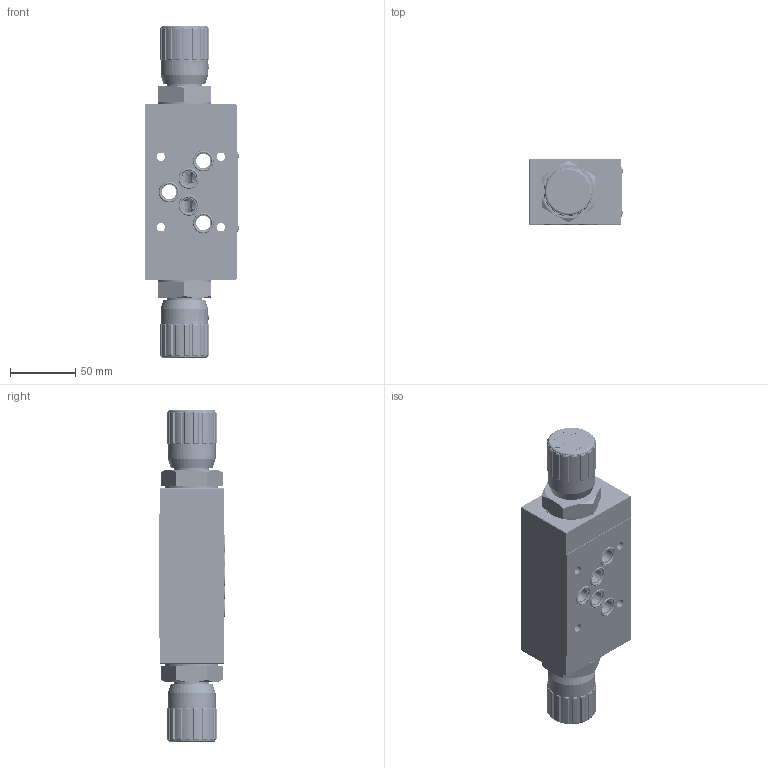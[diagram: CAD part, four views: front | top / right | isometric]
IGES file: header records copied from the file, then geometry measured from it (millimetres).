
Start section: SolidWorks IGES file using analytic representation for surfaces
Global section: file name: C:\Users\pc-te25\Desktop\357-5-AB-05-H.IGS; native system: SolidWorks 2018; preprocessor: SolidWorks 2018; author: pc-te25; date: 200601.134902; units: millimetre
Bounding box: 71.66 x 50.58 x 254.6 mm (x, y, z)
Surface area: 151906.9 mm2 (no closed solid volume)
Topology: 0 solids, 0 shells, 3162 faces, 37859 edges, 37837 vertices
Faces by surface type: bspline 2113, revolution 1049
